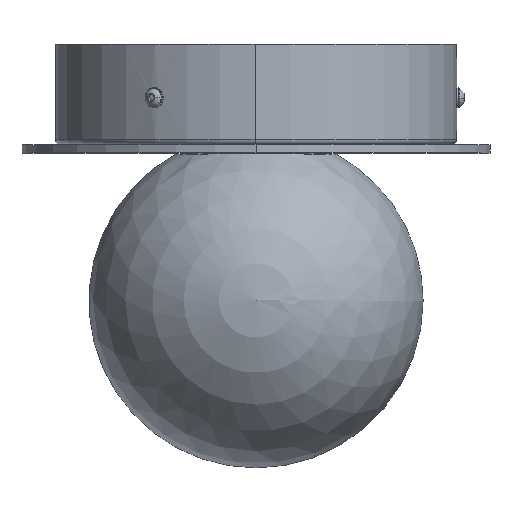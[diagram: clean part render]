
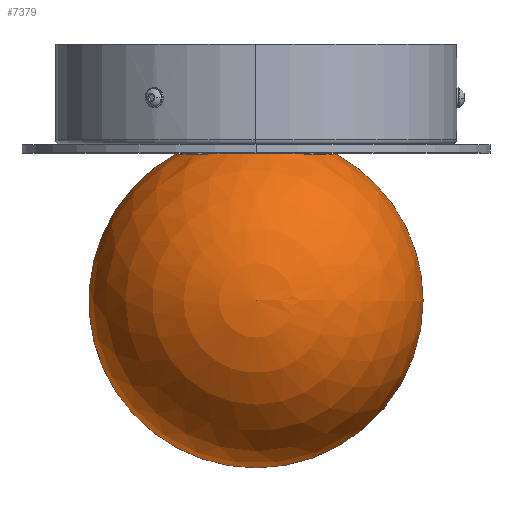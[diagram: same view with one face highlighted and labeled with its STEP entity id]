
A CAD part, top view. The second image highlights one B-rep face of the part: STEP entity #7379.
In plain terms, the highlighted spherical face has radius 50 mm.
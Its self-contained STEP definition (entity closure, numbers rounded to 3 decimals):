
#38 = CARTESIAN_POINT ( 'NONE',  ( -24., 43.863, 0. ) ) ;
#916 = CIRCLE ( 'NONE', #6208, 24. ) ;
#1064 = EDGE_LOOP ( 'NONE', ( #5441, #3202, #5512 ) ) ;
#1260 = DIRECTION ( 'NONE',  ( 0., 1., 0. ) ) ;
#1315 = CARTESIAN_POINT ( 'NONE',  ( 0., -50., 0. ) ) ;
#1387 = CARTESIAN_POINT ( 'NONE',  ( 0., 0., 0. ) ) ;
#1431 = FACE_OUTER_BOUND ( 'NONE', #1064, .T. ) ;
#2163 = DIRECTION ( 'NONE',  ( -1., 0., 0. ) ) ;
#2289 = CIRCLE ( 'NONE', #4549, 50. ) ;
#2571 = AXIS2_PLACEMENT_3D ( 'NONE', #1387, #4771, #4107 ) ;
#3202 = ORIENTED_EDGE ( 'NONE', *, *, #7214, .T. ) ;
#3511 = VERTEX_POINT ( 'NONE', #38 ) ;
#3667 = CIRCLE ( 'NONE', #5113, 50. ) ;
#4107 = DIRECTION ( 'NONE',  ( 1., 0., 0. ) ) ;
#4549 = AXIS2_PLACEMENT_3D ( 'NONE', #5829, #7381, #7422 ) ;
#4771 = DIRECTION ( 'NONE',  ( 0., 0., -1. ) ) ;
#5113 = AXIS2_PLACEMENT_3D ( 'NONE', #8084, #8266, #2163 ) ;
#5215 = VERTEX_POINT ( 'NONE', #1315 ) ;
#5441 = ORIENTED_EDGE ( 'NONE', *, *, #8401, .F. ) ;
#5446 = EDGE_CURVE ( 'NONE', #3511, #6938, #916, .T. ) ;
#5512 = ORIENTED_EDGE ( 'NONE', *, *, #5446, .F. ) ;
#5829 = CARTESIAN_POINT ( 'NONE',  ( 0., 0., 0. ) ) ;
#6035 = DIRECTION ( 'NONE',  ( -1., 0., 0. ) ) ;
#6208 = AXIS2_PLACEMENT_3D ( 'NONE', #7362, #1260, #6035 ) ;
#6248 = CARTESIAN_POINT ( 'NONE',  ( 24., 43.863, 0. ) ) ;
#6938 = VERTEX_POINT ( 'NONE', #6248 ) ;
#7214 = EDGE_CURVE ( 'NONE', #5215, #6938, #2289, .T. ) ;
#7362 = CARTESIAN_POINT ( 'NONE',  ( 0., 43.863, 0. ) ) ;
#7379 = ADVANCED_FACE ( 'NONE', ( #1431 ), #8118, .T. ) ;
#7381 = DIRECTION ( 'NONE',  ( 0., 0., 1. ) ) ;
#7422 = DIRECTION ( 'NONE',  ( 1., 0., 0. ) ) ;
#8084 = CARTESIAN_POINT ( 'NONE',  ( 0., 0., 0. ) ) ;
#8118 = SPHERICAL_SURFACE ( 'NONE', #2571, 50. ) ;
#8266 = DIRECTION ( 'NONE',  ( 0., 0., -1. ) ) ;
#8401 = EDGE_CURVE ( 'NONE', #5215, #3511, #3667, .T. ) ;
